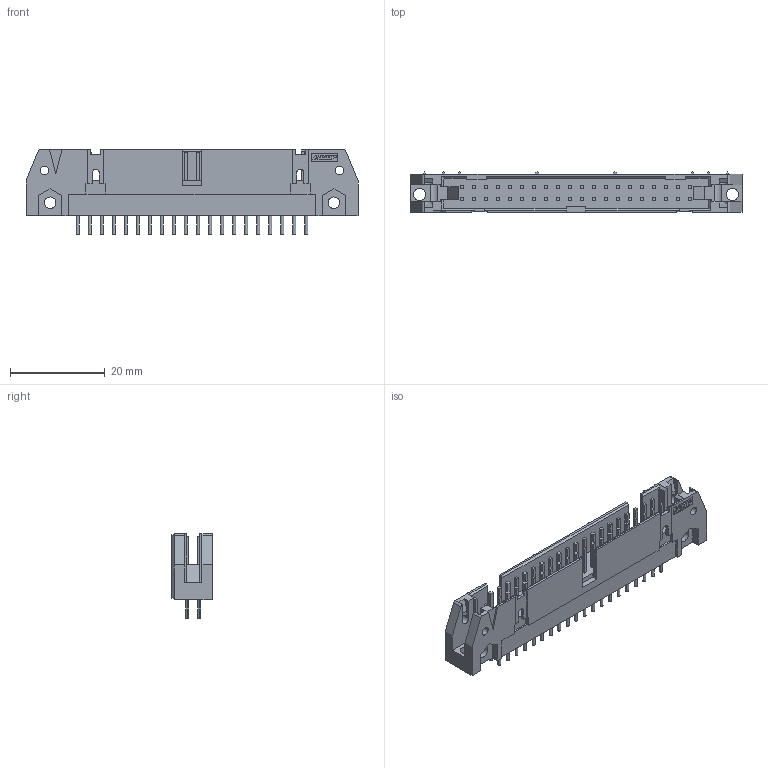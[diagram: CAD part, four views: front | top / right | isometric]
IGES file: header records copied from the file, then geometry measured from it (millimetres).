
Start section:  PTC IGES file: c-5102156-09-c-3d.igs
Global section: file name: c-5102156-09-c-3d.igs; native system: Pro/ENGINEER by Parametric Technology Corporation; preprocessor: 2005450; author: workeradm; organization: Unknown; date: 070901.035328; units: millimetre
Bounding box: 70.1 x 8.53 x 17.88 mm (x, y, z)
Surface area: 5267.4 mm2 (no closed solid volume)
Topology: 0 solids, 0 shells, 555 faces, 2782 edges, 2782 vertices
Faces by surface type: bspline 450, revolution 103, extrusion 2
